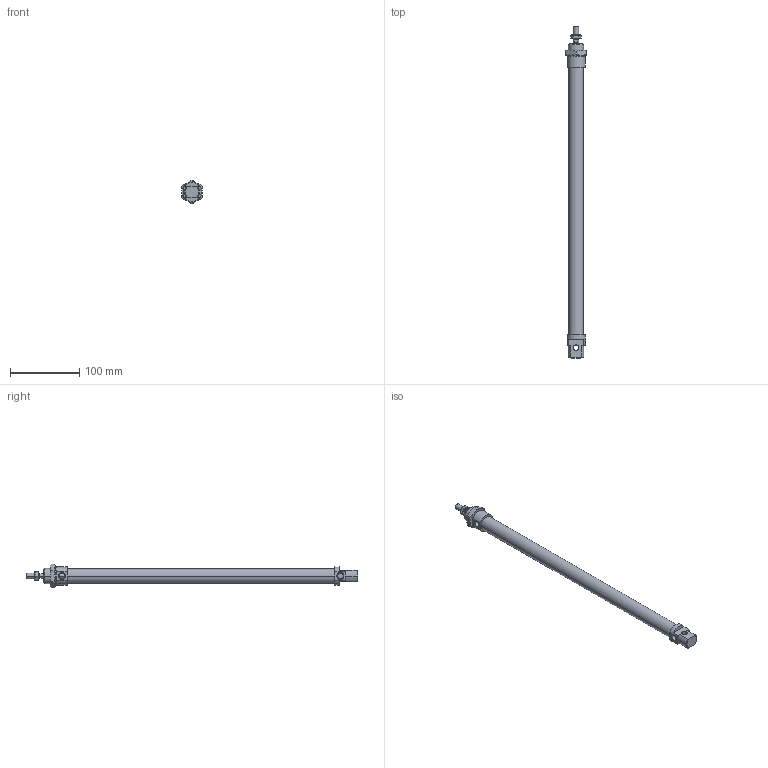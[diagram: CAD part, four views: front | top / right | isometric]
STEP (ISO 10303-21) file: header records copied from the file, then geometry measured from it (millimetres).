
FILE_DESCRIPTION((''),'2;1');
FILE_NAME('I:\DOC-EDP\Lib-3d\1200\CILINDRI\1280\1280_20_0350.stp','2003-04-07T17:59:11',('maffial1'),(''),'Autodesk Inventor (R) 6.0','Autodesk Inventor (R) 6.0','');
FILE_SCHEMA(('AUTOMOTIVE_DESIGN { 1 0 10303 214 1 1 1 1 }'));
Length unit declared in the file: millimetre
Products named in the file (5): 1280_20_0350; S1280_20_350; 1200_20_05; 1200_20_06; C1280_20_350
Assembly tree (4 placements, depth 2):
  1280_20_0350
    S1280_20_350
    1200_20_05
    1200_20_06
    C1280_20_350
Bounding box: 30 x 480 x 34.64 mm (x, y, z)
Volume: 167903 mm3; surface area: 55435 mm2
Topology: 4 solids, 4 shells, 124 faces, 281 edges, 170 vertices
Faces by surface type: plane 41, cone 40, cylinder 22, bspline 21
Entity records: 3816 total; most frequent: CARTESIAN_POINT 1039, DIRECTION 573, ORIENTED_EDGE 562, EDGE_CURVE 281, AXIS2_PLACEMENT_3D 236, VERTEX_POINT 170, EDGE_LOOP 137, FACE_OUTER_BOUND 124
